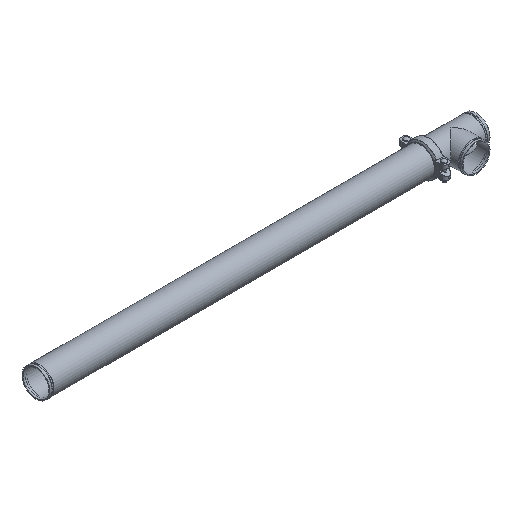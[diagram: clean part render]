
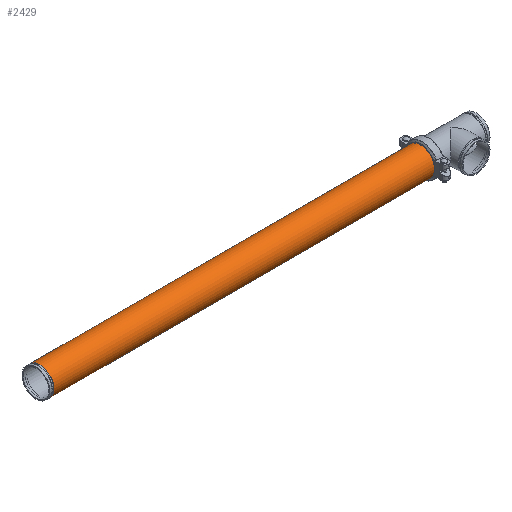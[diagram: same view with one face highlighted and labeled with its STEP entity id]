
A CAD part, isometric view. The second image highlights one B-rep face of the part: STEP entity #2429.
In plain terms, the highlighted cylindrical face has radius 109.537 mm (diameter 219.075 mm), a full revolution.
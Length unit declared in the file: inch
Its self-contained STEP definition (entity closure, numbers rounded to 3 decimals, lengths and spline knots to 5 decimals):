
#291=FACE_OUTER_BOUND('',#436,.T.);
#436=EDGE_LOOP('',(#2104,#2105,#2106,#2107,#2108,#2109));
#617=LINE('',#4251,#790);
#790=VECTOR('',#3478,4.3125);
#901=CIRCLE('',#2780,4.3125);
#902=CIRCLE('',#2781,4.3125);
#903=CIRCLE('',#2783,4.3125);
#904=CIRCLE('',#2784,4.3125);
#1127=VERTEX_POINT('',#4242);
#1128=VERTEX_POINT('',#4243);
#1129=VERTEX_POINT('',#4247);
#1130=VERTEX_POINT('',#4248);
#1457=EDGE_CURVE('',#1127,#1128,#901,.T.);
#1458=EDGE_CURVE('',#1128,#1127,#902,.T.);
#1459=EDGE_CURVE('',#1129,#1130,#903,.T.);
#1460=EDGE_CURVE('',#1130,#1129,#904,.T.);
#1461=EDGE_CURVE('',#1130,#1128,#617,.T.);
#2104=ORIENTED_EDGE('',*,*,#1459,.F.);
#2105=ORIENTED_EDGE('',*,*,#1460,.F.);
#2106=ORIENTED_EDGE('',*,*,#1461,.T.);
#2107=ORIENTED_EDGE('',*,*,#1458,.T.);
#2108=ORIENTED_EDGE('',*,*,#1457,.T.);
#2109=ORIENTED_EDGE('',*,*,#1461,.F.);
#2186=CYLINDRICAL_SURFACE('',#2782,4.3125);
#2429=ADVANCED_FACE('',(#291),#2186,.T.);
#2780=AXIS2_PLACEMENT_3D('',#4244,#3468,#3469);
#2781=AXIS2_PLACEMENT_3D('',#4245,#3470,#3471);
#2782=AXIS2_PLACEMENT_3D('',#4246,#3472,#3473);
#2783=AXIS2_PLACEMENT_3D('',#4249,#3474,#3475);
#2784=AXIS2_PLACEMENT_3D('',#4250,#3476,#3477);
#3468=DIRECTION('center_axis',(1.,0.,0.));
#3469=DIRECTION('ref_axis',(0.,0.,-1.));
#3470=DIRECTION('center_axis',(1.,0.,0.));
#3471=DIRECTION('ref_axis',(0.,0.,-1.));
#3472=DIRECTION('center_axis',(1.,0.,0.));
#3473=DIRECTION('ref_axis',(0.,1.,0.));
#3474=DIRECTION('center_axis',(1.,0.,0.));
#3475=DIRECTION('ref_axis',(0.,0.,-1.));
#3476=DIRECTION('center_axis',(1.,0.,0.));
#3477=DIRECTION('ref_axis',(0.,0.,-1.));
#3478=DIRECTION('',(-1.,0.,0.));
#4242=CARTESIAN_POINT('',(-58.781,4.3125,0.));
#4243=CARTESIAN_POINT('',(-58.781,-4.3125,0.));
#4244=CARTESIAN_POINT('Origin',(-58.781,0.,0.));
#4245=CARTESIAN_POINT('Origin',(-58.781,0.,0.));
#4246=CARTESIAN_POINT('Origin',(0.,0.,0.));
#4247=CARTESIAN_POINT('',(58.781,4.3125,0.));
#4248=CARTESIAN_POINT('',(58.781,-4.3125,0.));
#4249=CARTESIAN_POINT('Origin',(58.781,0.,0.));
#4250=CARTESIAN_POINT('Origin',(58.781,0.,0.));
#4251=CARTESIAN_POINT('',(0.,-4.3125,0.));
